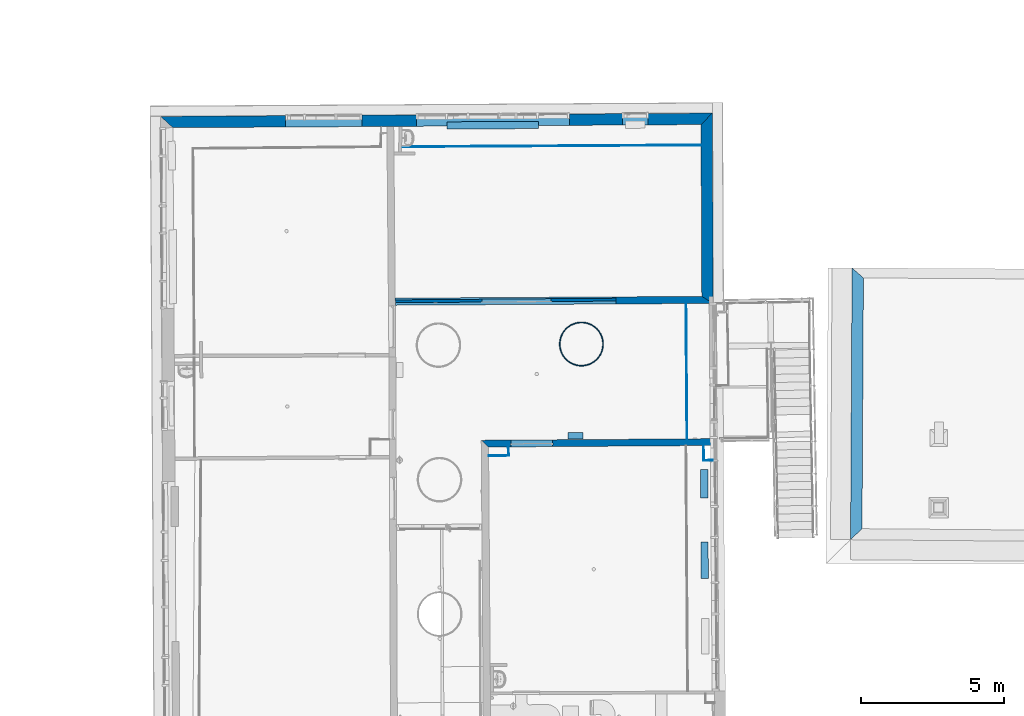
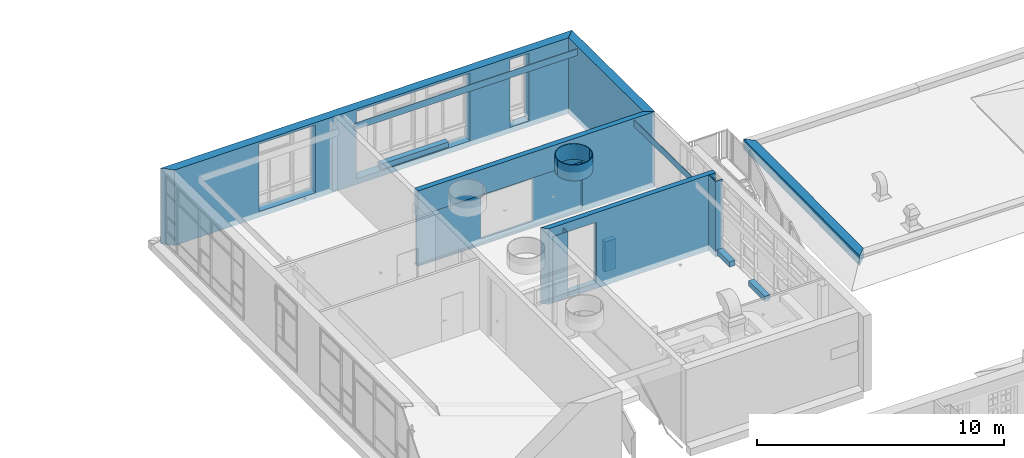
# One storey, part 27 of 158: 18 walls, 6 openings.
"""IFC2X3 building model written with IfcOpenShell, lengths in metres."""

from ifc_helpers import new_model, entity, si_unit, converted_unit, derived_unit, money_unit, point, direction, frame, frame_2d, origin_with_axes, origin_2d_with_axis, place, context, subcontext, project, spatial, polyline, circle_curve, parameter, trimmed, segment, composite_curve, rectangle, outline, extrude, material, layer, layer_set, layer_usage, type_object, element, save


model = new_model("IFC2X3")

# Units and contexts
model_context = context("Model", 3, precision=1e-05, world=origin_with_axes(), true_north=direction((0.0, 1.0)))
body_context = subcontext(model_context, "Body", "Model", "MODEL_VIEW")
ifc_project = project(units=[si_unit("LENGTHUNIT", "METRE"), si_unit("AREAUNIT", "SQUARE_METRE"), si_unit("VOLUMEUNIT", "CUBIC_METRE"), converted_unit("PLANEANGLEUNIT", "DEGREE", entity("IfcPlaneAngleMeasure", 0.0174532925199), si_unit("PLANEANGLEUNIT", "RADIAN"), dimensions=[0, 0, 0, 0, 0, 0, 0]), money_unit("EUR"), converted_unit("TIMEUNIT", "Year", entity("IfcTimeMeasure", 31556926.0), si_unit("TIMEUNIT", "SECOND"), dimensions=[0, 0, 1, 0, 0, 0, 0]), si_unit("MASSUNIT", "GRAM", prefix="KILO"), si_unit("THERMODYNAMICTEMPERATUREUNIT", "DEGREE_CELSIUS"), si_unit("LUMINOUSINTENSITYUNIT", "LUMEN"), si_unit("ENERGYUNIT", "JOULE", prefix="MEGA"), derived_unit("THERMALCONDUCTANCEUNIT", [(si_unit("POWERUNIT", "WATT"), 1), (si_unit("LENGTHUNIT", "METRE"), -1), (si_unit("THERMODYNAMICTEMPERATUREUNIT", "KELVIN"), -1)]), derived_unit("SPECIFICHEATCAPACITYUNIT", [(si_unit("ENERGYUNIT", "JOULE"), 1), (si_unit("MASSUNIT", "GRAM", prefix="KILO"), -1), (si_unit("THERMODYNAMICTEMPERATUREUNIT", "KELVIN"), -1)]), derived_unit("MASSDENSITYUNIT", [(si_unit("MASSUNIT", "GRAM", prefix="KILO"), 1), (si_unit("VOLUMEUNIT", "CUBIC_METRE"), -1)])], contexts=[model_context])

# Site, building, storey
site_placement = place(None, origin_with_axes())
site = spatial("IfcSite", under=ifc_project, at=site_placement, Name="Gelände", CompositionType="ELEMENT")
building_placement = place(site_placement, origin_with_axes())
building = spatial("IfcBuilding", under=site, at=building_placement, Name="Gebäude", CompositionType="ELEMENT")
storey_placement = place(building_placement, origin_with_axes())
storey = spatial("IfcBuildingStorey", under=building, at=storey_placement, Name="ERDGESCHOSS", CompositionType="ELEMENT", Elevation=0.0)

# Wall
ifc_material_1 = material(Name="05_ALLGEMEIN - TRAGENDE BAUTEILE")
ifc_layer_1 = layer(ifc_material_1, 0.4, ventilated="UNKNOWN")
ifc_layer_set_1 = layer_set([ifc_layer_1], Name="05_ALLGEMEIN - TRAGENDE BAUTEILE 0.4")
ifc_layer_usage_1 = layer_usage(ifc_layer_set_1, "AXIS2", "NEGATIVE", 0.0)
wall_type_1 = type_object("IfcWallType", Name="05_ALLGEMEIN - TRAGENDE BAUTEILE 400", PredefinedType="ELEMENTEDWALL")
wall_1_placement = place(storey_placement, frame((-15.6347250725, 54.0236342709, 1.06), z_axis=(0.0, 0.0, 1.0), x_axis=(0.00469614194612, -0.999988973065, 0.0)))
element("IfcWallStandardCase", 1, at=wall_1_placement, inside=storey, type_object=wall_type_1, material=ifc_layer_usage_1, Name="Wand-030", ObjectType="ELEMENTEDWALL", context=body_context, shape_type="SweptSolid", body=[
    extrude(outline(polyline([(0.400484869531, -0.4), (6.41374456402, -0.4), (6.66335913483, 0.0), (0.0, 0.0), (0.400484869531, -0.4)])), origin_with_axes(), (0.0, 0.0, 1.0), 3.74),
])

# Wall, openings
ifc_layer_usage_2 = layer_usage(ifc_layer_set_1, "AXIS2", "NEGATIVE", 0.4)
wall_2_placement = place(storey_placement, frame((-15.6347250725, 54.0236342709, 1.06), z_axis=(0.0, 0.0, 1.0), x_axis=(-0.99998255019, -0.00590756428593, 0.0)))
wall_2 = element("IfcWallStandardCase", 2, at=wall_2_placement, inside=storey, type_object=wall_type_1, material=ifc_layer_usage_2, Name="Wand-030", ObjectType="ELEMENTEDWALL", context=body_context, shape_type="SweptSolid", body=[
    extrude(outline(polyline([(0.0, 0.0), (19.3155334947, 0.0), (18.8855506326, 0.4), (0.400484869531, 0.4), (0.0, 0.0)])), origin_with_axes(), (0.0, 0.0, 1.0), 3.74),
])
opening_1_placement = place(wall_2_placement, frame((7.68260416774, 0.0, 0.280439), z_axis=(0.0, 0.0, 1.0), x_axis=(1.0, 0.0, 0.0)))
element("IfcOpeningElement", 3, at=opening_1_placement, cuts=wall_2, Name="Fenster-021", context=body_context, shape_type="SweptSolid", body=[
    extrude(rectangle(XDim=5.34697553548, YDim=3.34343050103, at=origin_2d_with_axis()), frame((0.0, 0.4, 1.67171525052), z_axis=(0.0, 1.0, 0.0), x_axis=(-1.0, 0.0, 0.0)), (0.0, 0.0, -1.0), 1.2),
])
opening_2_placement = place(wall_2_placement, frame((13.6033071, 0.0, 0.280439), z_axis=(0.0, 0.0, 1.0), x_axis=(1.0, 0.0, 0.0)))
element("IfcOpeningElement", 4, at=opening_2_placement, cuts=wall_2, Name="Fenster-021", context=body_context, shape_type="SweptSolid", body=[
    extrude(rectangle(XDim=2.66874158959, YDim=3.34343050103, at=origin_2d_with_axis()), frame((0.0, 0.4, 1.67171525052), z_axis=(0.0, 1.0, 0.0), x_axis=(-1.0, 0.0, 0.0)), (0.0, 0.0, -1.0), 1.2),
])
opening_3_placement = place(wall_2_placement, frame((2.69924258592, 0.0, 0.280439), z_axis=(0.0, 0.0, 1.0), x_axis=(1.0, 0.0, 0.0)))
element("IfcOpeningElement", 5, at=opening_3_placement, cuts=wall_2, Name="Fenster-021", context=body_context, shape_type="SweptSolid", body=[
    extrude(rectangle(XDim=0.907099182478, YDim=3.34343050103, at=origin_2d_with_axis()), frame((0.0, 0.4, 1.67171525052), z_axis=(0.0, 1.0, 0.0), x_axis=(-1.0, 0.0, 0.0)), (0.0, 0.0, -1.0), 1.2),
])

# Wall
ifc_layer_usage_3 = layer_usage(ifc_layer_set_1, "AXIS2", "NEGATIVE", 0.4)
wall_3_placement = place(storey_placement, frame((-10.7434661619, 48.6041376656, 0.5), z_axis=(0.0, 0.0, 1.0), x_axis=(-0.00559462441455, -0.999984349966, 0.0)))
element("IfcWallStandardCase", 6, at=wall_3_placement, inside=storey, type_object=wall_type_1, material=ifc_layer_usage_3, Name="Wand-030", ObjectType="ELEMENTEDWALL", context=body_context, shape_type="SweptSolid", body=[
    extrude(outline(polyline([(0.0, 0.0), (9.51505866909, 0.0), (9.12611661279, 0.4), (0.350057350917, 0.4), (0.0, 0.0)])), origin_with_axes(), (0.0, 0.0, 1.0), 0.496227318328),
])

# Wall, opening
ifc_layer_2 = layer(ifc_material_1, 0.250000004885, ventilated="UNKNOWN")
ifc_layer_set_2 = layer_set([ifc_layer_2], Name="05_ALLGEMEIN - TRAGENDE BAUTEILE 0.25")
ifc_layer_usage_4 = layer_usage(ifc_layer_set_2, "AXIS2", "NEGATIVE", 0.25)
wall_type_2 = type_object("IfcWallType", Name="05_ALLGEMEIN - TRAGENDE BAUTEILE 250", PredefinedType="ELEMENTEDWALL")
wall_4_placement = place(storey_placement, frame((-26.7331427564, 47.2973535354, 1.06), z_axis=(0.0, 0.0, 1.0), x_axis=(0.999983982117, 0.00565999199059, 0.0)))
wall_4 = element("IfcWallStandardCase", 7, at=wall_4_placement, inside=storey, type_object=wall_type_2, material=ifc_layer_usage_4, Name="Wand-030", ObjectType="ELEMENTEDWALL", context=body_context, shape_type="SweptSolid", body=[
    extrude(outline(polyline([(0.0, 0.0), (11.1298880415, 0.0), (10.7301288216, 0.25), (-0.000789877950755, 0.25), (0.0, 0.0)])), origin_with_axes(), (0.0, 0.0, 1.0), 3.74),
])
opening_4_placement = place(wall_4_placement, frame((3.86267304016, 0.0, 0.0637421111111), z_axis=(0.0, 0.0, 1.0), x_axis=(1.0, 0.0, 0.0)))
element("IfcOpeningElement", 8, at=opening_4_placement, cuts=wall_4, Name="Tür-022", context=body_context, shape_type="SweptSolid", body=[
    extrude(rectangle(XDim=7.72692583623, YDim=2.42091144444, at=origin_2d_with_axis()), frame((0.0, 0.193040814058, 1.21045572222), z_axis=(0.0, -1.0, 0.0), x_axis=(-1.0, 0.0, 0.0)), (0.0, 0.0, 1.0), 0.443040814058),
    extrude(rectangle(XDim=7.72692583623, YDim=2.42091144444, at=origin_2d_with_axis()), frame((0.0, 0.193040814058, 1.21045572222), z_axis=(0.0, 1.0, 0.0), x_axis=(-1.0, 0.0, 0.0)), (0.0, 0.0, 1.0), 0.306959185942),
])

# Walls
ifc_material_2 = material(Name="43_Gipskarton")
ifc_layer_3 = layer(ifc_material_2, 0.03, ventilated="UNKNOWN")
ifc_layer_set_3 = layer_set([ifc_layer_3], Name="43_Gipskarton 0.03")
ifc_layer_usage_5 = layer_usage(ifc_layer_set_3, "AXIS2", "NEGATIVE", 0.0)
wall_type_3 = type_object("IfcWallType", Name="43_Gipskarton 30", PredefinedType="ELEMENTEDWALL")
wall_5_placement = place(storey_placement, frame((-22.7596239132, 42.3376473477, 1.34), z_axis=(0.0, 0.0, 1.0), x_axis=(0.0348021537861, -0.999394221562, 0.0)))
element("IfcWallStandardCase", 9, at=wall_5_placement, inside=storey, type_object=wall_type_3, material=ifc_layer_usage_5, Name="Wand-031", ObjectType="ELEMENTEDWALL", context=body_context, shape_type="SweptSolid", body=[
    extrude(outline(polyline([(-0.000835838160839, -0.03), (0.285733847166, -0.03), (0.316518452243, 0.0), (0.0, 0.0), (-0.000835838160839, -0.03)])), origin_with_axes(), (0.0, 0.0, 1.0), 3.26),
])
ifc_layer_usage_6 = layer_usage(ifc_layer_set_3, "AXIS2", "NEGATIVE", 0.03)
wall_6_placement = place(storey_placement, frame((-15.9571148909, 42.3849603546, 1.06), z_axis=(0.0, 0.0, 1.0), x_axis=(0.00616678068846, -0.999980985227, 0.0)))
element("IfcWallStandardCase", 10, at=wall_6_placement, inside=storey, type_object=wall_type_3, material=ifc_layer_usage_6, Name="Wand-031", ObjectType="ELEMENTEDWALL", context=body_context, shape_type="SweptSolid", body=[
    extrude(outline(polyline([(0.0, 0.0), (0.537283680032, 0.0), (0.506959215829, 0.03), (-2.36489119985e-05, 0.03), (0.0, 0.0)])), origin_with_axes(), (0.0, 0.0, 1.0), 3.74),
])
ifc_layer_usage_7 = layer_usage(ifc_layer_set_3, "AXIS2", "NEGATIVE", 0.03)
wall_7_placement = place(storey_placement, frame((-15.9538015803, 41.8476868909, 1.06), z_axis=(0.0, 0.0, 1.0), x_axis=(0.999856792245, 0.0169232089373, 0.0)))
element("IfcWallStandardCase", 11, at=wall_7_placement, inside=storey, type_object=wall_type_3, material=ifc_layer_usage_7, Name="Wand-032", ObjectType="ELEMENTEDWALL", context=body_context, shape_type="SweptSolid", body=[
    extrude(outline(polyline([(0.0, 0.0), (0.333624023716, 0.0), (0.333900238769, 0.03), (0.0303244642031, 0.03), (0.0, 0.0)])), origin_with_axes(), (0.0, 0.0, 1.0), 3.74),
])
ifc_layer_usage_8 = layer_usage(ifc_layer_set_3, "AXIS2", "NEGATIVE", 0.0)
wall_8_placement = place(storey_placement, frame((-22.7486083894, 42.0213206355, 1.34), z_axis=(0.0, 0.0, 1.0), x_axis=(-0.999959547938, -0.00899458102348, 0.0)))
element("IfcWallStandardCase", 12, at=wall_8_placement, inside=storey, type_object=wall_type_3, material=ifc_layer_usage_8, Name="Wand-032", ObjectType="ELEMENTEDWALL", context=body_context, shape_type="SweptSolid", body=[
    extrude(outline(polyline([(0.0307846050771, -0.03), (0.716792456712, -0.03), (0.71684140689, 0.0), (0.0, 0.0), (0.0307846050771, -0.03)])), origin_with_axes(), (0.0, 0.0, 1.0), 3.26),
])
ifc_layer_usage_9 = layer_usage(ifc_layer_set_3, "AXIS2", "NEGATIVE", 0.0)
wall_9_placement = place(storey_placement, frame((-26.5078427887, 52.8588995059, 4.375), z_axis=(0.0, 0.0, 1.0), x_axis=(0.999983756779, 0.00569966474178, 0.0)))
element("IfcWallStandardCase", 13, at=wall_9_placement, inside=storey, type_object=wall_type_3, material=ifc_layer_usage_9, Name="Wand-040", ObjectType="ELEMENTEDWALL", context=body_context, shape_type="SweptSolid", body=[
    extrude(outline(polyline([(-0.000322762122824, -0.03), (10.4784427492, -0.03), (10.4784728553, 0.0), (0.0, 0.0), (-0.000322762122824, -0.03)])), origin_with_axes(), (0.0, 0.0, 1.0), 0.325),
])
ifc_layer_usage_10 = layer_usage(ifc_layer_set_3, "AXIS2", "NEGATIVE", 0.0)
wall_10_placement = place(storey_placement, frame((-19.4749763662, 45.9380943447, 4.385), z_axis=(0.0, 0.0, 1.0), x_axis=(0.0, 1.0, 0.0)))
element("IfcWallStandardCase", 14, at=wall_10_placement, inside=storey, type_object=wall_type_3, material=ifc_layer_usage_10, Name="Wand-040", ObjectType="ELEMENTEDWALL", context=body_context, shape_type="SweptSolid", body=[
    extrude(outline(composite_curve([segment(trimmed(circle_curve(frame_2d((0.0, 0.742305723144), x_axis=(0.0, -1.0)), 0.772305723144), [point((0.0, -0.03)), parameter(0.0)], [point((0.0, 1.51461144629)), parameter(180.0)], True, "CARTESIAN"), True, "CONTINUOUS"), segment(polyline([(0.0, 1.51461144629), (0.0, 1.48461144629)]), True, "CONTINUOUS"), segment(trimmed(circle_curve(frame_2d((0.0, 0.742305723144), x_axis=(0.0, -1.0)), 0.742305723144), [point((0.0, 1.48461144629)), parameter(180.0)], [point((0.0, 0.0)), parameter(0.0)], False, "CARTESIAN"), True, "CONTINUOUS"), segment(polyline([(0.0, 0.0), (0.0, -0.03)]), True, "CONTINUOUS")], self_intersect=False)), origin_with_axes(), (0.0, 0.0, 1.0), 0.78255860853),
])
ifc_layer_usage_11 = layer_usage(ifc_layer_set_3, "AXIS2", "NEGATIVE", 0.0)
wall_11_placement = place(storey_placement, frame((-16.5401608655, 47.3550466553, 4.385), z_axis=(0.0, 0.0, 1.0), x_axis=(0.00755576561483, -0.999971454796, 0.0)))
element("IfcWallStandardCase", 15, at=wall_11_placement, inside=storey, type_object=wall_type_3, material=ifc_layer_usage_11, Name="Wand-040", ObjectType="ELEMENTEDWALL", context=body_context, shape_type="SweptSolid", body=[
    extrude(outline(polyline([(-5.68745270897e-05, -0.03), (4.73400404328, -0.03), (4.73402206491, 0.0), (0.0, 0.0), (-5.68745270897e-05, -0.03)])), origin_with_axes(), (0.0, 0.0, 1.0), 0.33),
])
ifc_layer_usage_12 = layer_usage(ifc_layer_set_3, "AXIS2", "NEGATIVE", 0.0)
wall_12_placement = place(storey_placement, frame((-20.9595878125, 45.9380943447, 4.385), z_axis=(0.0, 0.0, 1.0), x_axis=(0.0, -1.0, 0.0)))
element("IfcWallStandardCase", 16, at=wall_12_placement, inside=storey, type_object=wall_type_3, material=ifc_layer_usage_12, Name="Wand-041", ObjectType="ELEMENTEDWALL", context=body_context, shape_type="SweptSolid", body=[
    extrude(outline(composite_curve([segment(trimmed(circle_curve(frame_2d((0.0, 0.742305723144), x_axis=(0.0, -1.0)), 0.772305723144), [point((0.0, -0.03)), parameter(0.0)], [point((0.0, 1.51461144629)), parameter(180.0)], True, "CARTESIAN"), True, "CONTINUOUS"), segment(polyline([(0.0, 1.51461144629), (0.0, 1.48461144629)]), True, "CONTINUOUS"), segment(trimmed(circle_curve(frame_2d((0.0, 0.742305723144), x_axis=(0.0, -1.0)), 0.742305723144), [point((0.0, 1.48461144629)), parameter(180.0)], [point((0.0, 0.0)), parameter(0.0)], False, "CARTESIAN"), True, "CONTINUOUS"), segment(polyline([(0.0, 0.0), (0.0, -0.03)]), True, "CONTINUOUS")], self_intersect=False)), origin_with_axes(), (0.0, 0.0, 1.0), 0.78255860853),
])

# Wall, opening
ifc_layer_4 = layer(ifc_material_2, 0.1, ventilated="UNKNOWN")
ifc_layer_set_4 = layer_set([ifc_layer_4], Name="43_Gipskarton 0.1")
ifc_layer_usage_13 = layer_usage(ifc_layer_set_4, "AXIS2", "POSITIVE", -0.1)
wall_type_4 = type_object("IfcWallType", Name="43_Gipskarton 100", PredefinedType="ELEMENTEDWALL")
wall_13_placement = place(storey_placement, frame((-19.0020733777, 47.4438248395, 1.12374211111), z_axis=(0.0, 0.0, 1.0), x_axis=(-0.999971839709, -0.00750465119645, 0.0)))
wall_13 = element("IfcWallStandardCase", 17, at=wall_13_placement, inside=storey, type_object=wall_type_4, material=ifc_layer_usage_13, Name="Wand-030", ObjectType="ELEMENTEDWALL", context=body_context, shape_type="SweptSolid", body=[
    extrude(outline(polyline([(0.0, -0.1), (7.73219865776, -0.1), (7.7320671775, 0.0), (0.0, 0.0), (0.0, -0.1)])), origin_with_axes(), (0.0, 0.0, 1.0), 2.42091144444),
])
opening_5_placement = place(wall_13_placement, frame((3.49063086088, 0.0, 0.196257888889), z_axis=(0.0, 0.0, 1.0), x_axis=(1.0, 0.0, 0.0)))
element("IfcOpeningElement", 18, at=opening_5_placement, cuts=wall_13, Name="Tür-022", context=body_context, shape_type="SweptSolid", body=[
    extrude(rectangle(XDim=2.42480653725, YDim=2.10514943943, at=origin_2d_with_axis()), frame((0.0, 0.1, 1.05257471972), z_axis=(0.0, -1.0, 0.0), x_axis=(1.0, 0.0, 0.0)), (0.0, 0.0, 1.0), 0.3),
])

# Walls
ifc_material_3 = material(Name="01_ALLGEMEIN - BAUTEIL")
ifc_layer_5 = layer(ifc_material_3, 0.255, ventilated="UNKNOWN")
ifc_layer_set_5 = layer_set([ifc_layer_5], Name="01_ALLGEMEIN - BAUTEIL 0.255")
ifc_layer_usage_14 = layer_usage(ifc_layer_set_5, "AXIS2", "NEGATIVE", 0.0)
wall_type_5 = type_object("IfcWallType", Name="01_ALLGEMEIN - BAUTEIL 255", PredefinedType="ELEMENTEDWALL")
wall_14_placement = place(storey_placement, frame((-16.0272209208, 37.7253807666, 1.38444872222), z_axis=(0.0, 0.0, 1.0), x_axis=(-0.00781797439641, 0.999969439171, 0.0)))
element("IfcWallStandardCase", 19, at=wall_14_placement, inside=storey, type_object=wall_type_5, material=ifc_layer_usage_14, Name="Wand-031", ObjectType="ELEMENTEDWALL", context=body_context, shape_type="SweptSolid", body=[
    extrude(outline(polyline([(0.0, -0.255), (1.28927884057, -0.255), (1.28927884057, 0.0), (0.0, 0.0), (0.0, -0.255)])), origin_with_axes(), (0.0, 0.0, 1.0), 0.260503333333),
])
ifc_layer_usage_15 = layer_usage(ifc_layer_set_5, "AXIS2", "NEGATIVE", 0.0)
wall_15_placement = place(storey_placement, frame((-21.7196186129, 53.4806692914, 1.47369322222), z_axis=(0.0, 0.0, 1.0), x_axis=(-0.999985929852, -0.00530472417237, 0.0)))
element("IfcWallStandardCase", 20, at=wall_15_placement, inside=storey, type_object=wall_type_5, material=ifc_layer_usage_15, Name="Wand-031", ObjectType="ELEMENTEDWALL", context=body_context, shape_type="SweptSolid", body=[
    extrude(outline(polyline([(0.0, -0.255), (3.19529810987, -0.255), (3.19529810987, 0.0), (0.0, 0.0), (0.0, -0.255)])), origin_with_axes(), (0.0, 0.0, 1.0), 0.260503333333),
])
ifc_layer_usage_16 = layer_usage(ifc_layer_set_5, "AXIS2", "NEGATIVE", 0.0)
wall_16_placement = place(storey_placement, frame((-16.0468352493, 40.549336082, 1.38444872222), z_axis=(0.0, 0.0, 1.0), x_axis=(-0.00305541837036, 0.999995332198, 0.0)))
element("IfcWallStandardCase", 21, at=wall_16_placement, inside=storey, type_object=wall_type_5, material=ifc_layer_usage_16, Name="Wand-032", ObjectType="ELEMENTEDWALL", context=body_context, shape_type="SweptSolid", body=[
    extrude(outline(polyline([(0.0, -0.255), (0.994820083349, -0.255), (0.994820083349, 0.0), (0.0, 0.0), (0.0, -0.255)])), origin_with_axes(), (0.0, 0.0, 1.0), 0.260503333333),
])
ifc_layer_6 = layer(ifc_material_3, 0.225, ventilated="UNKNOWN")
ifc_layer_set_6 = layer_set([ifc_layer_6], Name="01_ALLGEMEIN - BAUTEIL 0.225")
ifc_layer_usage_17 = layer_usage(ifc_layer_set_6, "AXIS2", "NEGATIVE", 0.225)
wall_type_6 = type_object("IfcWallType", Name="01_ALLGEMEIN - BAUTEIL 225", PredefinedType="ELEMENTEDWALL")
wall_17_placement = place(storey_placement, frame((-20.1612599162, 42.8435255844, 1.49977922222), z_axis=(0.0, 0.0, 1.0), x_axis=(-0.999998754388, -0.00157836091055, 0.0)))
element("IfcWallStandardCase", 22, at=wall_17_placement, inside=storey, type_object=wall_type_6, material=ifc_layer_usage_17, Name="Wand-030", ObjectType="ELEMENTEDWALL", context=body_context, shape_type="SweptSolid", body=[
    extrude(outline(polyline([(0.0, 0.0), (0.52220604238, 0.0), (0.52220604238, 0.225), (0.0, 0.225), (0.0, 0.0)])), origin_with_axes(), (0.0, 0.0, 1.0), 1.495583),
])

# Wall, opening
ifc_layer_7 = layer(ifc_material_1, 0.24, ventilated="UNKNOWN")
ifc_layer_set_7 = layer_set([ifc_layer_7], Name="05_ALLGEMEIN - TRAGENDE BAUTEILE 0.24")
ifc_layer_usage_18 = layer_usage(ifc_layer_set_7, "AXIS2", "POSITIVE", -0.24)
wall_type_7 = type_object("IfcWallType", Name="05_ALLGEMEIN - TRAGENDE BAUTEILE 240", PredefinedType="ELEMENTEDWALL")
wall_18_placement = place(storey_placement, frame((-15.2443549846, 42.3899177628, 1.06), z_axis=(0.0, 0.0, 1.0), x_axis=(-0.999975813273, -0.00695506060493, 0.0)))
wall_18 = element("IfcWallStandardCase", 23, at=wall_18_placement, inside=storey, type_object=wall_type_7, material=ifc_layer_usage_18, Name="Wand-030", ObjectType="ELEMENTEDWALL", context=body_context, shape_type="SweptSolid", body=[
    extrude(outline(polyline([(0.380182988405, -0.24), (8.47910248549, -0.24), (8.22360509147, 0.0), (0.38000011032, 0.0), (0.380182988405, -0.24)])), origin_with_axes(), (0.0, 0.0, 1.0), 3.74),
])
opening_6_placement = place(wall_18_placement, frame((6.71576153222, 0.0, 0.280439), z_axis=(0.0, 0.0, 1.0), x_axis=(1.0, 0.0, 0.0)))
element("IfcOpeningElement", 24, at=opening_6_placement, cuts=wall_18, Name="Tür-022", context=body_context, shape_type="SweptSolid", body=[
    extrude(rectangle(XDim=1.45150553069, YDim=2.994561, at=origin_2d_with_axis()), frame((0.0, -0.125, 1.4972805), z_axis=(0.0, 1.0, 0.0), x_axis=(-1.0, 0.0, 0.0)), (0.0, 0.0, -1.0), 0.355),
    extrude(rectangle(XDim=1.49150553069, YDim=3.014561, at=origin_2d_with_axis()), frame((0.0, -0.125, 1.5072805), z_axis=(0.0, 1.0, 0.0), x_axis=(-1.0, 0.0, 0.0)), (0.0, 0.0, 1.0), 0.065),
    extrude(rectangle(XDim=1.45150553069, YDim=2.994561, at=origin_2d_with_axis()), frame((0.0, -0.06, 1.4972805), z_axis=(0.0, -1.0, 0.0), x_axis=(-1.0, 0.0, 0.0)), (0.0, 0.0, -1.0), 0.3),
])

save(model, "model.ifc")
